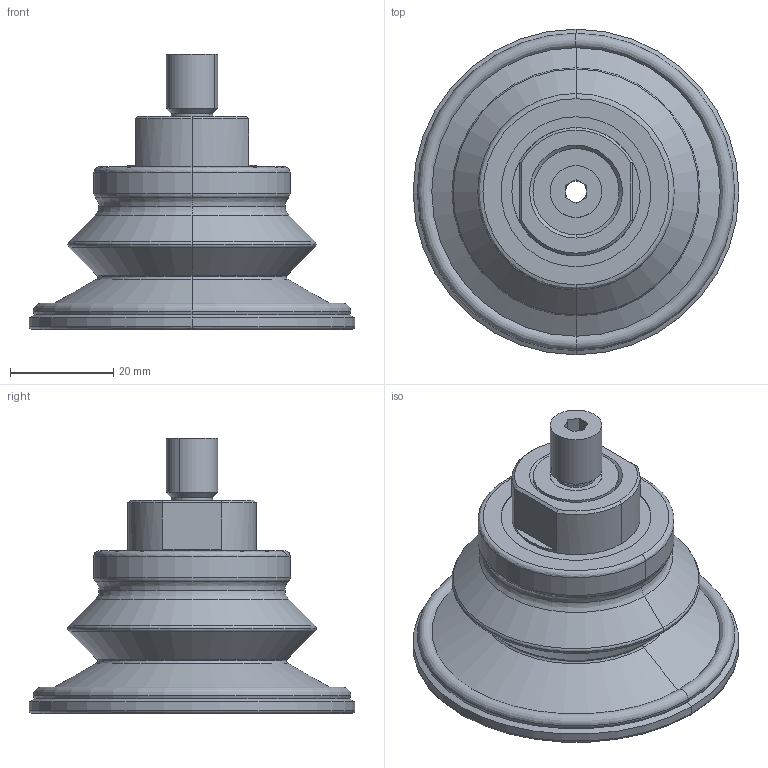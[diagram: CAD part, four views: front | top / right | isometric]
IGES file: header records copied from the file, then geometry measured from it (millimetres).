
Start section: 3D InterOp IGES (v. 2018 1.0.2), Spatial Corp. Copyright (c) 1999-2017.
Global section: file name: schmalz_10_01_06_00998_2mtv02t7yp4wfxda6070wsee0.igs; native system: Spatial Corp.; preprocessor: 3D InterOp ACIS/IGES; author: TraceParts; organization: TraceParts S.A.; date: 20181018.074856; units: millimetre
Bounding box: 63 x 63 x 53.31 mm (x, y, z)
Surface area: 14272.2 mm2 (no closed solid volume)
Topology: 0 solids, 0 shells, 108 faces, 460 edges, 460 vertices
Faces by surface type: revolution 72, extrusion 36
